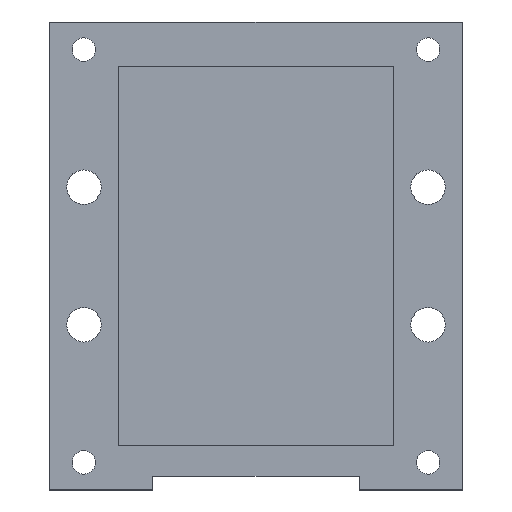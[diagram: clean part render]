
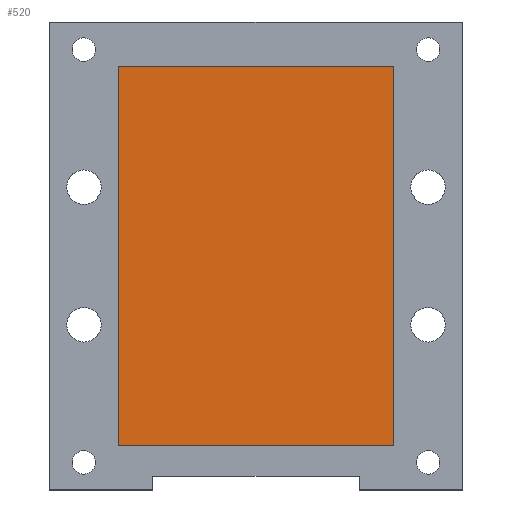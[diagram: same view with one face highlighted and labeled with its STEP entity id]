
A CAD part, top view. The second image highlights one B-rep face of the part: STEP entity #520.
In plain terms, the highlighted planar face has unit normal (0, 0, 1).
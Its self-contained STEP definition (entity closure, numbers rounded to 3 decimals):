
#46=PLANE('',#590);
#77=FACE_OUTER_BOUND('',#121,.T.);
#121=EDGE_LOOP('',(#473,#474,#475,#476));
#164=LINE('',#860,#212);
#166=LINE('',#864,#214);
#168=LINE('',#868,#216);
#170=LINE('',#871,#218);
#212=VECTOR('',#715,1000.);
#214=VECTOR('',#719,1000.);
#216=VECTOR('',#723,1000.);
#218=VECTOR('',#727,1000.);
#281=VERTEX_POINT('',#857);
#282=VERTEX_POINT('',#859);
#283=VERTEX_POINT('',#863);
#284=VERTEX_POINT('',#867);
#344=EDGE_CURVE('',#282,#281,#164,.T.);
#346=EDGE_CURVE('',#283,#282,#166,.T.);
#348=EDGE_CURVE('',#284,#283,#168,.T.);
#350=EDGE_CURVE('',#281,#284,#170,.T.);
#473=ORIENTED_EDGE('',*,*,#344,.T.);
#474=ORIENTED_EDGE('',*,*,#350,.T.);
#475=ORIENTED_EDGE('',*,*,#348,.T.);
#476=ORIENTED_EDGE('',*,*,#346,.T.);
#520=ADVANCED_FACE('',(#77),#46,.T.);
#590=AXIS2_PLACEMENT_3D('',#872,#728,#729);
#715=DIRECTION('',(0.,-1.,0.));
#719=DIRECTION('',(-1.,0.,0.));
#723=DIRECTION('',(0.,1.,0.));
#727=DIRECTION('',(1.,0.,0.));
#728=DIRECTION('center_axis',(0.,0.,1.));
#729=DIRECTION('ref_axis',(1.,0.,0.));
#857=CARTESIAN_POINT('',(-20.,-27.5,1.5));
#859=CARTESIAN_POINT('',(-20.,27.5,1.5));
#860=CARTESIAN_POINT('',(-20.,-27.5,1.5));
#863=CARTESIAN_POINT('',(20.,27.5,1.5));
#864=CARTESIAN_POINT('',(20.,27.5,1.5));
#867=CARTESIAN_POINT('',(20.,-27.5,1.5));
#868=CARTESIAN_POINT('',(20.,-27.5,1.5));
#871=CARTESIAN_POINT('',(20.,-27.5,1.5));
#872=CARTESIAN_POINT('Origin',(0.,0.,1.5));
